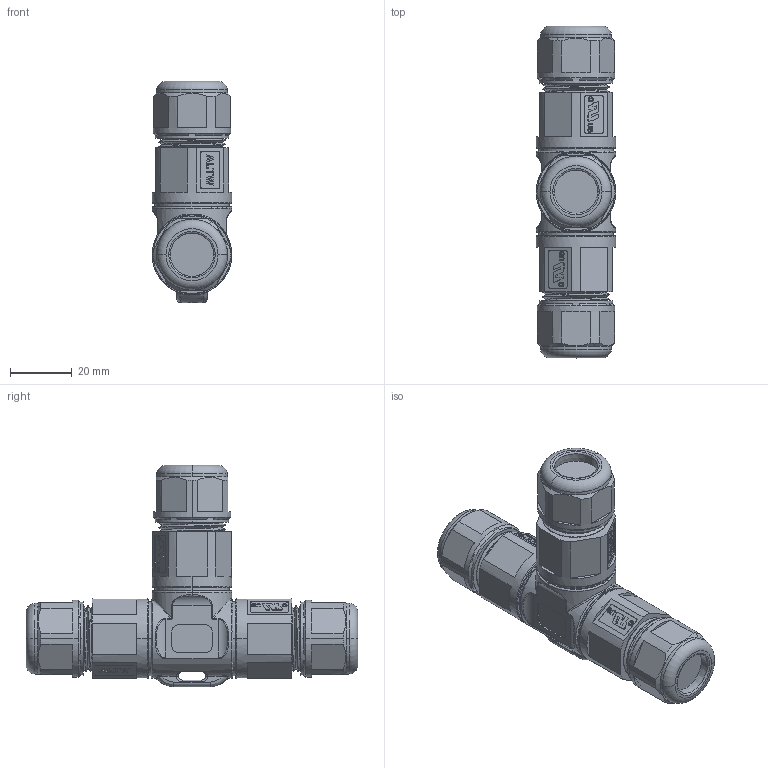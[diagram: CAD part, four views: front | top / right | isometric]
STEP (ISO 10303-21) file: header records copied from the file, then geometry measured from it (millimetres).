
FILE_DESCRIPTION((''),'2;1');
FILE_NAME('PGT2-5P_ASM_8_SW0001','2021-10-12T',('K210213'),(''),'PRO/ENGINEER BY PARAMETRIC TECHNOLOGY CORPORATION, 2013050','PRO/ENGINEER BY PARAMETRIC TECHNOLOGY CORPORATION, 2013050','');
FILE_SCHEMA(('CONFIG_CONTROL_DESIGN'));
Length unit declared in the file: millimetre
Products named in the file (1): PGT2-5P_ASM_8_SW0001
Bounding box: 25.8 x 107.6 x 71.75 mm (x, y, z)
Volume: 69362.4 mm3; surface area: 15259.5 mm2
Topology: 1 solids, 1 shells, 884 faces, 2395 edges, 1565 vertices
Faces by surface type: plane 619, cylinder 106, bspline 52, cone 40, extrusion 39, torus 28
Entity records: 33450 total; most frequent: CARTESIAN_POINT 11444, ORIENTED_EDGE 4790, DIRECTION 4181, EDGE_CURVE 2395, VECTOR 1713, LINE 1674, VERTEX_POINT 1565, AXIS2_PLACEMENT_3D 1234
